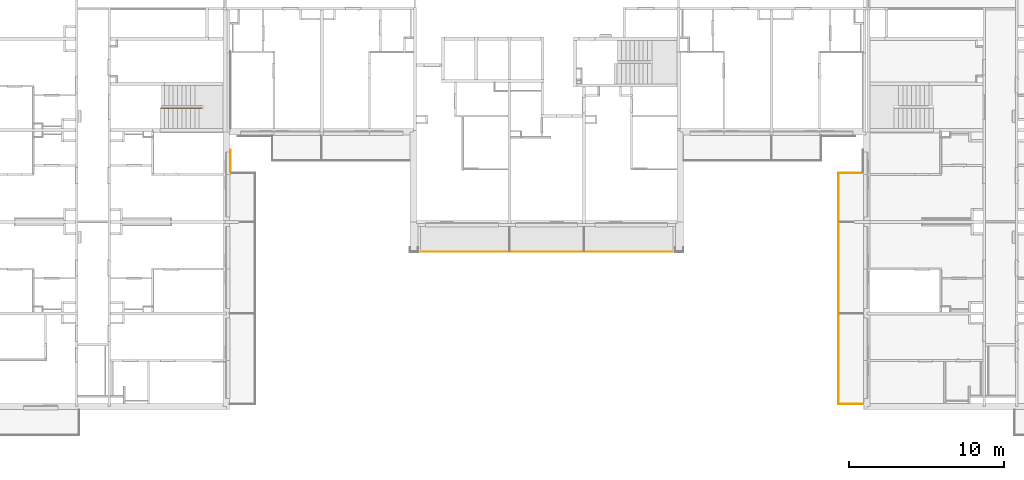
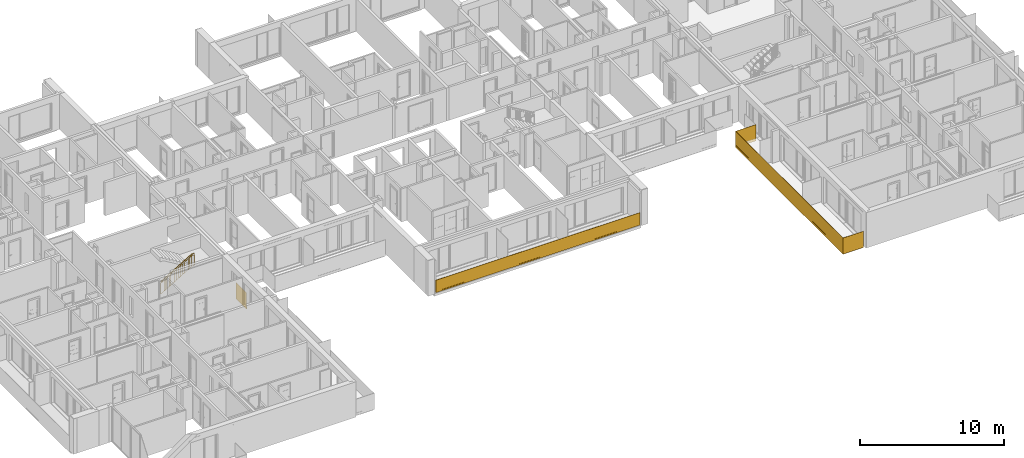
# One storey, part 4 of 64: 4 railings.
"""IFC2X3 building model written with IfcOpenShell, lengths in millimetres."""

from ifc_helpers import new_model, entity, si_unit, converted_unit, derived_unit, money_unit, direction, frame, origin_with_axes, place, context, subcontext, project, spatial, faceted_brep, material, material_list, type_object, element, save


model = new_model("IFC2X3")

# Units and contexts
model_context = context("Model", 3, precision=0.01, world=origin_with_axes(), true_north=direction((0.34421633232, 0.938890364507)))
body_context = subcontext(model_context, "Body", "Model", "MODEL_VIEW")
ifc_project = project(units=[si_unit("LENGTHUNIT", "METRE", prefix="MILLI"), si_unit("AREAUNIT", "SQUARE_METRE"), si_unit("VOLUMEUNIT", "CUBIC_METRE"), converted_unit("PLANEANGLEUNIT", "DEGREE", entity("IfcPlaneAngleMeasure", 0.0174532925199), si_unit("PLANEANGLEUNIT", "RADIAN"), dimensions=[0, 0, 0, 0, 0, 0, 0]), si_unit("SOLIDANGLEUNIT", "STERADIAN"), money_unit("USD"), converted_unit("TIMEUNIT", "Year", entity("IfcTimeMeasure", 31556926.0), si_unit("TIMEUNIT", "SECOND"), dimensions=[0, 0, 1, 0, 0, 0, 0]), si_unit("MASSUNIT", "GRAM", prefix="KILO"), si_unit("THERMODYNAMICTEMPERATUREUNIT", "DEGREE_CELSIUS"), si_unit("LUMINOUSINTENSITYUNIT", "LUMEN"), si_unit("ENERGYUNIT", "JOULE", prefix="MEGA"), derived_unit("THERMALCONDUCTANCEUNIT", [(si_unit("POWERUNIT", "WATT"), 1), (si_unit("LENGTHUNIT", "METRE"), -1), (si_unit("THERMODYNAMICTEMPERATUREUNIT", "KELVIN"), -1)]), derived_unit("SPECIFICHEATCAPACITYUNIT", [(si_unit("ENERGYUNIT", "JOULE"), 1), (si_unit("MASSUNIT", "GRAM", prefix="KILO"), -1), (si_unit("THERMODYNAMICTEMPERATUREUNIT", "KELVIN"), -1)]), derived_unit("MASSDENSITYUNIT", [(si_unit("MASSUNIT", "GRAM", prefix="KILO"), 1), (si_unit("VOLUMEUNIT", "CUBIC_METRE"), -1)])], contexts=[model_context])

# Site, building, storey
site_placement = place(None, origin_with_axes())
site = spatial("IfcSite", under=ifc_project, at=site_placement, Name="USTRONIE MORSKIE", CompositionType="ELEMENT")
building_placement = place(site_placement, origin_with_axes())
building = spatial("IfcBuilding", under=site, at=building_placement, Name="Budynek", CompositionType="ELEMENT")
storey_placement = place(building_placement, frame((0.0, 0.0, 7000.0), z_axis=(0.0, 0.0, 1.0), x_axis=(1.0, 0.0, 0.0)))
storey = spatial("IfcBuildingStorey", under=building, at=storey_placement, Name="PIĘTRO 2", CompositionType="ELEMENT", Elevation=7000.0)

# Railings
ifc_material_1 = material(Name="Szkło struktualne")
ifc_material_2 = material(Name="Profile aluminiowe")
ifc_material_list_1 = material_list([ifc_material_1, ifc_material_2])
railing_type = type_object("IfcRailingType", Name="Typ balustrady", PredefinedType="NOTDEFINED")
railing_1_placement = place(storey_placement, frame((367377.958165, 724111.198359, 0.0), z_axis=(0.0, 0.0, 1.0), x_axis=(-1.0, 0.0, 0.0)))
element("IfcRailing", 1, at=railing_1_placement, inside=storey, type_object=railing_type, material=ifc_material_list_1, Name="BL1", PredefinedType="NOTDEFINED", context=body_context, shape_type="Brep", body=[
    faceted_brep([(-40.0, -1550.0, -300.0), (-40.0, -80.0, -300.0), (-40.0, -80.0, 1070.0), (-40.0, -1550.0, 1070.0), (-60.0, -80.0, -300.0), (-60.0, -1550.0, -300.0), (-60.0, -80.0, 1070.0), (-60.0, -1550.0, 1070.0)], [[[0, 1, 2, 3]], [[4, 1, 0, 5]], [[6, 2, 1, 4]], [[3, 2, 6, 7]], [[0, 3, 7, 5]], [[6, 4, 5, 7]]]),
    faceted_brep([(-65.0, -1550.0, -105.0), (-65.0, -80.0, -105.0), (-65.0, -80.0, -305.0), (-65.0, -1550.0, -305.0), (-60.0, -1550.0, -105.0), (-60.0, -80.0, -105.0), (-60.0, -80.0, -300.0), (-40.0, -80.0, -300.0), (-40.0, -80.0, -105.0), (-35.0, -80.0, -105.0), (-35.0, -80.0, -305.0), (-35.0, -1550.0, -305.0), (-35.0, -1550.0, -105.0), (-40.0, -1550.0, -105.0), (-40.0, -1550.0, -300.0), (-60.0, -1550.0, -300.0)], [[[0, 1, 2, 3]], [[1, 0, 4, 5]], [[6, 7, 8, 9, 10, 2, 1, 5]], [[10, 11, 3, 2]], [[11, 12, 13, 14, 15, 4, 0, 3]], [[15, 6, 5, 4]], [[7, 6, 15, 14]], [[8, 7, 14, 13]], [[9, 8, 13, 12]], [[11, 10, 9, 12]]]),
])
ifc_material_list_2 = material_list([ifc_material_1, ifc_material_2, ifc_material_1, ifc_material_2, ifc_material_1, ifc_material_2])
railing_2_placement = place(storey_placement, frame((408267.914768, 724111.198359, 0.0), z_axis=(0.0, 0.0, 1.0), x_axis=(-1.0, 0.0, 0.0)))
element("IfcRailing", 2, at=railing_2_placement, inside=storey, type_object=railing_type, material=ifc_material_list_2, Name="BL1", PredefinedType="NOTDEFINED", context=body_context, shape_type="Brep", body=[
    faceted_brep([(29.9999996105, -40.0000002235, -300.00000039), (29.9999996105, -40.0000002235, 1069.99999972), (1639.99901128, -40.0000002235, 1069.99999972), (1639.99901128, -40.0000002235, -300.00000039), (29.9999996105, -59.9999997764, 1069.99999972), (29.9999996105, -59.9999997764, -300.00000039), (1659.99896906, -59.9999997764, 1069.99999972), (1659.99896906, -59.9999997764, -300.00000039)], [[[0, 1, 2, 3]], [[4, 1, 0, 5]], [[2, 1, 4, 6]], [[3, 2, 6, 7]], [[5, 0, 3, 7]], [[6, 4, 5, 7]]]),
    faceted_brep([(1649.99899054, -64.9999999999, -105.0), (30.0, -64.9999999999, -105.0), (30.0, -64.9999999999, -305.0), (1649.99899054, -64.9999999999, -305.0), (1649.99899054, -59.9999999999, -105.0), (30.0, -59.9999999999, -105.0), (30.0, -59.9999999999, -300.0), (30.0, -40.0, -300.0), (30.0, -40.0, -105.0), (30.0, -35.0, -105.0), (30.0, -35.0, -305.0), (1649.99899054, -35.0, -305.0), (1649.99899054, -35.0, -105.0), (1649.99899054, -40.0, -105.0), (1649.99899054, -40.0, -300.0), (1649.99899054, -59.9999999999, -300.0)], [[[0, 1, 2, 3]], [[1, 0, 4, 5]], [[6, 7, 8, 9, 10, 2, 1, 5]], [[10, 11, 3, 2]], [[11, 12, 13, 14, 15, 4, 0, 3]], [[15, 6, 5, 4]], [[7, 6, 15, 14]], [[8, 7, 14, 13]], [[9, 8, 13, 12]], [[11, 10, 9, 12]]]),
    faceted_brep([(1639.99901165, -40.000000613, -300.00000039), (1639.99901165, -40.000000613, 1069.99999972), (1640.03011585, 14849.9993229, 1069.99999972), (1640.03011585, 14849.9993229, -300.00000039), (1659.99896943, -60.0000001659, 1069.99999972), (1659.99896943, -60.0000001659, -300.00000039), (1660.03015719, 14869.9993224, 1069.99999972), (1660.03015719, 14869.9993224, -300.00000039)], [[[0, 1, 2, 3]], [[4, 1, 0, 5]], [[2, 1, 4, 6]], [[3, 2, 6, 7]], [[5, 0, 3, 7]], [[6, 4, 5, 7]]]),
    faceted_brep([(1665.03013652, 14859.9992911, -105.0), (1664.99899054, -50.000031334, -105.0), (1664.99899054, -50.000031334, -305.0), (1665.03013652, 14859.9992911, -305.0), (1660.03013652, 14859.9993015, -105.0), (1659.99899054, -50.0000208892, -105.0), (1659.99899054, -50.0000208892, -300.0), (1639.99899054, -49.9999791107, -300.0), (1639.99899054, -49.9999791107, -105.0), (1634.99899054, -49.9999686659, -105.0), (1634.99899054, -49.9999686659, -305.0), (1635.03013652, 14859.9993537, -305.0), (1635.03013652, 14859.9993537, -105.0), (1640.03013652, 14859.9993433, -105.0), (1640.03013652, 14859.9993433, -300.0), (1660.03013652, 14859.9993015, -300.0)], [[[0, 1, 2, 3]], [[1, 0, 4, 5]], [[6, 7, 8, 9, 10, 2, 1, 5]], [[10, 11, 3, 2]], [[11, 12, 13, 14, 15, 4, 0, 3]], [[15, 6, 5, 4]], [[7, 6, 15, 14]], [[8, 7, 14, 13]], [[9, 8, 13, 12]], [[11, 10, 9, 12]]]),
    faceted_brep([(1640.03011624, 14849.9993226, -300.00000039), (1640.03011624, 14849.9993226, 1069.99999972), (30.0628355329, 14849.9993226, 1069.99999972), (30.0628355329, 14849.9993226, -300.00000039), (1660.03015757, 14869.9993222, 1069.99999972), (1660.03015757, 14869.9993222, -300.00000039), (30.0628355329, 14869.9993222, 1069.99999972), (30.0628355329, 14869.9993222, -300.00000039)], [[[0, 1, 2, 3]], [[4, 1, 0, 5]], [[2, 1, 4, 6]], [[3, 2, 6, 7]], [[5, 0, 3, 7]], [[6, 4, 5, 7]]]),
    faceted_brep([(30.0628352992, 14874.9993224, -105.0), (1650.03013652, 14874.9993224, -105.0), (1650.03013652, 14874.9993224, -305.0), (30.0628352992, 14874.9993224, -305.0), (30.0628352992, 14869.9993224, -105.0), (1650.03013652, 14869.9993224, -105.0), (1650.03013652, 14849.9993224, -300.0), (1650.03013652, 14849.9993224, -105.0), (1650.03013652, 14844.9993224, -105.0), (1650.03013652, 14844.9993224, -305.0), (1650.03013652, 14869.9993224, -300.0), (30.0628352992, 14844.9993224, -305.0), (30.0628352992, 14844.9993224, -105.0), (30.0628352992, 14849.9993224, -105.0), (30.0628352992, 14849.9993224, -300.0), (30.0628352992, 14869.9993224, -300.0)], [[[0, 1, 2, 3]], [[1, 0, 4, 5]], [[6, 7, 8, 9, 2, 1, 5, 10]], [[9, 11, 3, 2]], [[11, 12, 13, 14, 15, 4, 0, 3]], [[15, 10, 5, 4]], [[7, 6, 14, 13]], [[8, 7, 13, 12]], [[11, 9, 8, 12]], [[6, 10, 15, 14]]]),
])
railing_3_placement = place(storey_placement, frame((395637.920919, 719051.199036, 30.0), z_axis=(0.0, 0.0, 1.0), x_axis=(1.0, 0.0, 0.0)))
element("IfcRailing", 3, at=railing_3_placement, inside=storey, type_object=railing_type, material=ifc_material_list_1, Name="BL1", PredefinedType="NOTDEFINED", context=body_context, shape_type="Brep", body=[
    faceted_brep([(-16000.0, 9.99999999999, -100.0), (360.0, 9.99999999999, -100.0), (360.0, 9.99999999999, 950.0), (-16000.0, 9.99999999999, 950.0), (360.0, 30.0, -100.0), (-16000.0, 30.0, -100.0), (360.0, 30.0, 950.0), (-16000.0, 30.0, 950.0)], [[[0, 1, 2, 3]], [[4, 1, 0, 5]], [[6, 2, 1, 4]], [[3, 2, 6, 7]], [[0, 3, 7, 5]], [[6, 4, 5, 7]]]),
    faceted_brep([(360.0, 35.0, -105.0), (-16000.0, 35.0, -105.0), (-16000.0, 35.0, -5.0), (360.0, 35.0, -5.0), (360.0, 5.0, -105.0), (-16000.0, 5.0, -105.0), (-16000.0, 5.0, -5.0), (-16000.0, 9.99999999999, -5.0), (-16000.0, 9.99999999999, -100.0), (-16000.0, 30.0, -100.0), (-16000.0, 30.0, -5.0), (360.0, 30.0, -5.0), (360.0, 9.99999999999, -100.0), (360.0, 9.99999999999, -5.0), (360.0, 5.0, -5.0), (360.0, 30.0, -100.0)], [[[0, 1, 2, 3]], [[4, 5, 1, 0]], [[5, 6, 7, 8, 9, 10, 2, 1]], [[3, 2, 10, 11]], [[12, 13, 14, 4, 0, 3, 11, 15]], [[5, 4, 14, 6]], [[14, 13, 7, 6]], [[13, 12, 8, 7]], [[12, 15, 9, 8]], [[9, 15, 11, 10]]]),
])
ifc_material_3 = material(Name="Stal konstrukcyjna")
ifc_material_4 = material(Name="Stal nierdzewna")
ifc_material_list_3 = material_list([ifc_material_3, ifc_material_3, ifc_material_3, ifc_material_4, ifc_material_4, ifc_material_4, ifc_material_3, ifc_material_3, ifc_material_4, ifc_material_4, ifc_material_4, ifc_material_3, ifc_material_3, ifc_material_3, ifc_material_3, ifc_material_3, ifc_material_3, ifc_material_3, ifc_material_3, ifc_material_3, ifc_material_3, ifc_material_3, ifc_material_3, ifc_material_3, ifc_material_3, ifc_material_3, ifc_material_3, ifc_material_3, ifc_material_3, ifc_material_3, ifc_material_3, ifc_material_3, ifc_material_3, ifc_material_3])
railing_4_placement = place(storey_placement, frame((365667.920919, 728301.19902, 192.0), z_axis=(0.0, 0.0, 1.0), x_axis=(1.0, 0.0, 0.0)))
element("IfcRailing", 4, at=railing_4_placement, inside=storey, type_object=railing_type, material=ifc_material_list_3, Name="BL1", PredefinedType="NOTDEFINED", context=body_context, shape_type="Brep", body=[
    faceted_brep([(-60.0, 45.0, 1324.4388337), (-60.0, 25.0, 1324.4388337), (-60.0, 25.0, 2224.4388337), (-60.0, 45.0, 2224.4388337), (-40.0, 45.0, 1324.4388337), (-40.0, 25.0, 1324.4388337), (-55.0, 40.0, 1324.4388337), (-55.0, 30.0, 1324.4388337), (-45.0, 30.0, 1324.4388337), (-45.0, 40.0, 1324.4388337), (-40.0, 25.0, 2224.4388337), (-40.0, 45.0, 2224.4388337), (-55.0, 40.0, 2224.4388337), (-45.0, 40.0, 2224.4388337), (-45.0, 30.0, 2224.4388337), (-55.0, 30.0, 2224.4388337)], [[[0, 1, 2, 3]], [[0, 4, 5, 1], [6, 7, 8, 9]], [[1, 5, 10, 2]], [[3, 2, 10, 11], [12, 13, 14, 15]], [[4, 0, 3, 11]], [[5, 4, 11, 10]], [[7, 6, 12, 15]], [[8, 7, 15, 14]], [[9, 8, 14, 13]], [[6, 9, 13, 12]]]),
    faceted_brep([(-260.0, 45.0, 1321.68950513), (-260.0, 25.0, 1321.68950513), (-260.0, 25.0, 2221.68950513), (-260.0, 45.0, 2221.68950513), (-240.0, 45.0, 1327.18816226), (-240.0, 25.0, 1327.18816226), (-255.0, 40.0, 1323.06416941), (-255.0, 30.0, 1323.06416941), (-245.0, 30.0, 1325.81349798), (-245.0, 40.0, 1325.81349798), (-240.0, 25.0, 2227.18816226), (-240.0, 45.0, 2227.18816226), (-255.0, 40.0, 2223.06416941), (-245.0, 40.0, 2225.81349798), (-245.0, 30.0, 2225.81349798), (-255.0, 30.0, 2223.06416941)], [[[0, 1, 2, 3]], [[0, 4, 5, 1], [6, 7, 8, 9]], [[1, 5, 10, 2]], [[3, 2, 10, 11], [12, 13, 14, 15]], [[4, 0, 3, 11]], [[5, 4, 11, 10]], [[7, 6, 12, 15]], [[8, 7, 15, 14]], [[9, 8, 14, 13]], [[6, 9, 13, 12]]]),
    faceted_brep([(-2738.76673491, 45.0, -155.948275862), (-2738.76673491, 25.0, -155.948275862), (-2738.76673491, 25.0, 744.051724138), (-2738.76673491, 45.0, 744.051724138), (-2718.76673491, 45.0, -144.051724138), (-2718.76673491, 25.0, -144.051724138), (-2733.76673491, 40.0, -152.974137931), (-2733.76673491, 30.0, -152.974137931), (-2723.76673491, 30.0, -147.025862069), (-2723.76673491, 40.0, -147.025862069), (-2718.76673491, 25.0, 755.948275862), (-2718.76673491, 45.0, 755.948275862), (-2733.76673491, 40.0, 747.025862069), (-2723.76673491, 40.0, 752.974137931), (-2723.76673491, 30.0, 752.974137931), (-2733.76673491, 30.0, 747.025862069)], [[[0, 1, 2, 3]], [[0, 4, 5, 1], [6, 7, 8, 9]], [[1, 5, 10, 2]], [[3, 2, 10, 11], [12, 13, 14, 15]], [[4, 0, 3, 11]], [[5, 4, 11, 10]], [[7, 6, 12, 15]], [[8, 7, 15, 14]], [[9, 8, 14, 13]], [[6, 9, 13, 12]]]),
    faceted_brep([(-50.0, 59.9999999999, 2374.4388337), (-50.0, 59.9999999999, 2349.4388337), (-243.12667858, 59.9999999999, 2349.4388337), (-250.0, 59.9999999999, 2374.4388337), (-50.0, 9.99999999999, 2374.4388337), (-50.0, 9.99999999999, 2349.4388337), (-50.0, 25.0, 2349.4388337), (-50.0, 25.0, 2354.4388337), (-50.0, 45.0, 2354.4388337), (-50.0, 45.0, 2349.4388337), (-243.12667858, 45.0, 2349.4388337), (-244.501342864, 45.0, 2354.4388337), (-244.501342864, 25.0, 2354.4388337), (-243.12667858, 25.0, 2349.4388337), (-243.12667858, 9.99999999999, 2349.4388337), (-250.0, 9.99999999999, 2374.4388337)], [[[0, 1, 2, 3]], [[0, 4, 5, 6, 7, 8, 9, 1]], [[1, 9, 10, 2]], [[3, 2, 10, 11, 12, 13, 14, 15]], [[4, 0, 3, 15]], [[5, 4, 15, 14]], [[6, 5, 14, 13]], [[7, 6, 13, 12]], [[8, 7, 12, 11]], [[9, 8, 11, 10]]]),
    faceted_brep([(-50.0, 45.0, 2349.4388337), (-50.0, 25.0, 2349.4388337), (-243.12667858, 25.0, 2349.4388337), (-243.12667858, 45.0, 2349.4388337), (-50.0, 45.0, 2354.4388337), (-50.0, 25.0, 2354.4388337), (-244.501342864, 25.0, 2354.4388337), (-244.501342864, 45.0, 2354.4388337)], [[[0, 1, 2, 3]], [[0, 4, 5, 1]], [[1, 5, 6, 2]], [[3, 2, 6, 7]], [[4, 0, 3, 7]], [[5, 4, 7, 6]]]),
    faceted_brep([(-102.5, 45.0, 2229.4388337), (-102.5, 25.0, 2229.4388337), (-102.5, 25.0, 2349.4388337), (-102.5, 45.0, 2349.4388337), (-97.5, 45.0, 2229.4388337), (-97.5, 25.0, 2229.4388337), (-97.5, 25.0, 2349.4388337), (-97.5, 45.0, 2349.4388337)], [[[0, 1, 2, 3]], [[0, 4, 5, 1]], [[1, 5, 6, 2]], [[3, 2, 6, 7]], [[4, 0, 3, 7]], [[5, 4, 7, 6]]]),
    faceted_brep([(-202.5, 45.0, 2229.4388337), (-202.5, 25.0, 2229.4388337), (-202.5, 25.0, 2349.4388337), (-202.5, 45.0, 2349.4388337), (-197.5, 45.0, 2229.4388337), (-197.5, 25.0, 2229.4388337), (-197.5, 25.0, 2349.4388337), (-197.5, 45.0, 2349.4388337)], [[[0, 1, 2, 3]], [[0, 4, 5, 1]], [[1, 5, 6, 2]], [[3, 2, 6, 7]], [[4, 0, 3, 7]], [[5, 4, 7, 6]]]),
    faceted_brep([(-50.0, 54.9999999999, 2224.4388337), (-50.0, 54.9999999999, 2219.4388337), (-248.625335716, 54.9999999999, 2219.4388337), (-250.0, 54.9999999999, 2224.4388337), (-50.0, 15.0, 2224.4388337), (-50.0, 15.0, 2219.4388337), (-248.625335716, 15.0, 2219.4388337), (-250.0, 15.0, 2224.4388337)], [[[0, 1, 2, 3]], [[0, 4, 5, 1]], [[1, 5, 6, 2]], [[3, 2, 6, 7]], [[4, 0, 3, 7]], [[5, 4, 7, 6]]]),
    faceted_brep([(-50.0, 54.9999999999, 1316.9388337), (-50.0, 54.9999999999, 1311.9388337), (-249.312667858, 54.9999999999, 1311.9388337), (-250.687332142, 54.9999999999, 1316.9388337), (-50.0, 15.0, 1316.9388337), (-50.0, 15.0, 1311.9388337), (-249.312667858, 15.0, 1311.9388337), (-250.687332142, 15.0, 1316.9388337)], [[[0, 1, 2, 3]], [[0, 4, 5, 1]], [[1, 5, 6, 2]], [[3, 2, 6, 7]], [[4, 0, 3, 7]], [[5, 4, 7, 6]]]),
    faceted_brep([(-146.095841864, 47.5, 1324.4388337), (-146.095841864, 22.4999999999, 1324.4388337), (-146.095841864, 22.4999999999, 2214.4388337), (-146.095841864, 47.5, 2214.4388337), (-136.095841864, 47.5, 1324.4388337), (-136.095841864, 22.4999999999, 1324.4388337), (-136.095841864, 22.4999999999, 2214.4388337), (-136.095841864, 47.5, 2214.4388337)], [[[0, 1, 2, 3]], [[0, 4, 5, 1]], [[1, 5, 6, 2]], [[3, 2, 6, 7]], [[4, 0, 3, 7]], [[5, 4, 7, 6]]]),
    faceted_brep([(-237.191683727, 47.5, 1324.4388337), (-237.191683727, 22.4999999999, 1324.4388337), (-237.191683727, 22.4999999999, 2214.4388337), (-237.191683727, 47.5, 2214.4388337), (-227.191683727, 47.5, 1324.4388337), (-227.191683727, 22.4999999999, 1324.4388337), (-227.191683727, 22.4999999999, 2214.4388337), (-227.191683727, 47.5, 2214.4388337)], [[[0, 1, 2, 3]], [[0, 4, 5, 1]], [[1, 5, 6, 2]], [[3, 2, 6, 7]], [[4, 0, 3, 7]], [[5, 4, 7, 6]]]),
    faceted_brep([(-250.0, 59.9999999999, 2374.4388337), (-243.12667858, 59.9999999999, 2349.4388337), (-2715.98615176, 59.9999999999, 878.513802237), (-2728.76673491, 59.9999999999, 900.0), (-250.0, 9.99999999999, 2374.4388337), (-243.12667858, 9.99999999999, 2349.4388337), (-243.12667858, 25.0, 2349.4388337), (-244.501342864, 25.0, 2354.4388337), (-244.501342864, 45.0, 2354.4388337), (-243.12667858, 45.0, 2349.4388337), (-2715.98615176, 45.0, 878.513802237), (-2718.54226839, 45.0, 882.81104179), (-2718.54226839, 25.0, 882.81104179), (-2715.98615176, 25.0, 878.513802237), (-2715.98615176, 9.99999999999, 878.513802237), (-2728.76673491, 9.99999999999, 900.0)], [[[0, 1, 2, 3]], [[0, 4, 5, 6, 7, 8, 9, 1]], [[1, 9, 10, 2]], [[3, 2, 10, 11, 12, 13, 14, 15]], [[4, 0, 3, 15]], [[5, 4, 15, 14]], [[6, 5, 14, 13]], [[7, 6, 13, 12]], [[8, 7, 12, 11]], [[9, 8, 11, 10]]]),
    faceted_brep([(-243.12667858, 45.0, 2349.4388337), (-243.12667858, 25.0, 2349.4388337), (-2715.98615176, 25.0, 878.513802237), (-2715.98615176, 45.0, 878.513802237), (-244.501342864, 45.0, 2354.4388337), (-244.501342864, 25.0, 2354.4388337), (-2718.54226839, 25.0, 882.81104179), (-2718.54226839, 45.0, 882.81104179)], [[[0, 1, 2, 3]], [[0, 4, 5, 1]], [[1, 5, 6, 2]], [[3, 2, 6, 7]], [[4, 0, 3, 7]], [[5, 4, 7, 6]]]),
    faceted_brep([(-295.472395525, 45.0, 2199.7892262), (-295.472395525, 25.0, 2199.7892262), (-295.472395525, 25.0, 2319.7892262), (-295.472395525, 45.0, 2319.7892262), (-290.472395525, 45.0, 2199.7892262), (-290.472395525, 25.0, 2199.7892262), (-290.472395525, 25.0, 2321.27629517), (-292.972395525, 25.0, 2321.27629517), (-292.972395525, 45.0, 2321.27629517), (-290.472395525, 45.0, 2321.27629517)], [[[0, 1, 2, 3]], [[0, 4, 5, 1]], [[1, 5, 6, 7, 2]], [[7, 8, 3, 2]], [[4, 0, 3, 8, 9]], [[5, 4, 9, 6]], [[7, 6, 9, 8]]]),
    faceted_brep([(-2688.29433938, 45.0, 776.472725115), (-2688.29433938, 25.0, 776.472725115), (-2688.29433938, 25.0, 896.472725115), (-2688.29433938, 45.0, 896.472725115), (-2683.29433938, 45.0, 776.472725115), (-2683.29433938, 25.0, 776.472725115), (-2683.29433938, 25.0, 897.95979408), (-2685.79433938, 25.0, 897.95979408), (-2685.79433938, 45.0, 897.95979408), (-2683.29433938, 45.0, 897.95979408)], [[[0, 1, 2, 3]], [[0, 4, 5, 1]], [[1, 5, 6, 7, 2]], [[7, 8, 3, 2]], [[4, 0, 3, 8, 9]], [[5, 4, 9, 6]], [[7, 6, 9, 8]]]),
    faceted_brep([(-250.0, 54.9999999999, 2224.4388337), (-248.625335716, 54.9999999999, 2219.4388337), (-2726.21061828, 54.9999999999, 745.702760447), (-2728.76673491, 54.9999999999, 750.0), (-250.0, 15.0, 2224.4388337), (-248.625335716, 15.0, 2219.4388337), (-2726.21061828, 15.0, 745.702760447), (-2728.76673491, 15.0, 750.0)], [[[0, 1, 2, 3]], [[0, 4, 5, 1]], [[1, 5, 6, 2]], [[3, 2, 6, 7]], [[4, 0, 3, 7]], [[5, 4, 7, 6]]]),
    faceted_brep([(-250.687332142, 54.9999999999, 1316.9388337), (-249.312667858, 54.9999999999, 1311.9388337), (-2727.48867659, 54.9999999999, -162.148619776), (-2730.04479322, 54.9999999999, -157.851380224), (-250.687332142, 15.0, 1316.9388337), (-249.312667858, 15.0, 1311.9388337), (-2727.48867659, 15.0, -162.148619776), (-2730.04479322, 15.0, -157.851380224)], [[[0, 1, 2, 3]], [[0, 4, 5, 1]], [[1, 5, 6, 2]], [[3, 2, 6, 7]], [[4, 0, 3, 7]], [[5, 4, 7, 6]]]),
    faceted_brep([(-311.050034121, 47.5, 1288.12458926), (-311.050034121, 22.4999999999, 1288.12458926), (-311.050034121, 22.4999999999, 2178.12458926), (-311.050034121, 47.5, 2178.12458926), (-301.050034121, 47.5, 1294.07286512), (-301.050034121, 22.4999999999, 1294.07286512), (-301.050034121, 22.4999999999, 2184.07286512), (-301.050034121, 47.5, 2184.07286512)], [[[0, 1, 2, 3]], [[0, 4, 5, 1]], [[1, 5, 6, 2]], [[3, 2, 6, 7]], [[4, 0, 3, 7]], [[5, 4, 7, 6]]]),
    faceted_brep([(-416.883367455, 50.0, 1225.17200305), (-416.883367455, 20.0, 1225.17200305), (-416.883367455, 20.0, 2115.17200305), (-416.883367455, 50.0, 2115.17200305), (-411.883367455, 50.0, 1228.14614099), (-411.883367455, 20.0, 1228.14614099), (-411.883367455, 20.0, 2118.14614099), (-411.883367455, 50.0, 2118.14614099)], [[[0, 1, 2, 3]], [[0, 4, 5, 1]], [[1, 5, 6, 2]], [[3, 2, 6, 7]], [[4, 0, 3, 7]], [[5, 4, 7, 6]]]),
    faceted_brep([(-527.716700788, 47.5, 1159.24527892), (-527.716700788, 22.4999999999, 1159.24527892), (-527.716700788, 22.4999999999, 2049.24527892), (-527.716700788, 47.5, 2049.24527892), (-517.716700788, 47.5, 1165.19355478), (-517.716700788, 22.4999999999, 1165.19355478), (-517.716700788, 22.4999999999, 2055.19355478), (-517.716700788, 47.5, 2055.19355478)], [[[0, 1, 2, 3]], [[0, 4, 5, 1]], [[1, 5, 6, 2]], [[3, 2, 6, 7]], [[4, 0, 3, 7]], [[5, 4, 7, 6]]]),
    faceted_brep([(-636.050034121, 47.5, 1094.80562374), (-636.050034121, 22.4999999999, 1094.80562374), (-636.050034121, 22.4999999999, 1984.80562374), (-636.050034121, 47.5, 1984.80562374), (-626.050034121, 47.5, 1100.75389961), (-626.050034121, 22.4999999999, 1100.75389961), (-626.050034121, 22.4999999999, 1990.75389961), (-626.050034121, 47.5, 1990.75389961)], [[[0, 1, 2, 3]], [[0, 4, 5, 1]], [[1, 5, 6, 2]], [[3, 2, 6, 7]], [[4, 0, 3, 7]], [[5, 4, 7, 6]]]),
    faceted_brep([(-744.383367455, 47.5, 1030.36596857), (-744.383367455, 22.4999999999, 1030.36596857), (-744.383367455, 22.4999999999, 1920.36596857), (-744.383367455, 47.5, 1920.36596857), (-734.383367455, 47.5, 1036.31424443), (-734.383367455, 22.4999999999, 1036.31424443), (-734.383367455, 22.4999999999, 1926.31424443), (-734.383367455, 47.5, 1926.31424443)], [[[0, 1, 2, 3]], [[0, 4, 5, 1]], [[1, 5, 6, 2]], [[3, 2, 6, 7]], [[4, 0, 3, 7]], [[5, 4, 7, 6]]]),
    faceted_brep([(-852.716700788, 47.5, 965.9263134), (-852.716700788, 22.4999999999, 965.9263134), (-852.716700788, 22.4999999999, 1855.9263134), (-852.716700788, 47.5, 1855.9263134), (-842.716700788, 47.5, 971.874589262), (-842.716700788, 22.4999999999, 971.874589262), (-842.716700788, 22.4999999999, 1861.87458926), (-842.716700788, 47.5, 1861.87458926)], [[[0, 1, 2, 3]], [[0, 4, 5, 1]], [[1, 5, 6, 2]], [[3, 2, 6, 7]], [[4, 0, 3, 7]], [[5, 4, 7, 6]]]),
    faceted_brep([(-961.050034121, 47.5, 901.486658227), (-961.050034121, 22.4999999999, 901.486658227), (-961.050034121, 22.4999999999, 1791.48665823), (-961.050034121, 47.5, 1791.48665823), (-951.050034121, 47.5, 907.434934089), (-951.050034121, 22.4999999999, 907.434934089), (-951.050034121, 22.4999999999, 1797.43493409), (-951.050034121, 47.5, 1797.43493409)], [[[0, 1, 2, 3]], [[0, 4, 5, 1]], [[1, 5, 6, 2]], [[3, 2, 6, 7]], [[4, 0, 3, 7]], [[5, 4, 7, 6]]]),
    faceted_brep([(-1066.88336745, 50.0, 838.53407202), (-1066.88336745, 20.0, 838.53407202), (-1066.88336745, 20.0, 1728.53407202), (-1066.88336745, 50.0, 1728.53407202), (-1061.88336745, 50.0, 841.508209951), (-1061.88336745, 20.0, 841.508209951), (-1061.88336745, 20.0, 1731.50820995), (-1061.88336745, 50.0, 1731.50820995)], [[[0, 1, 2, 3]], [[0, 4, 5, 1]], [[1, 5, 6, 2]], [[3, 2, 6, 7]], [[4, 0, 3, 7]], [[5, 4, 7, 6]]]),
    faceted_brep([(-1177.71670079, 47.5, 772.607347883), (-1177.71670079, 22.4999999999, 772.607347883), (-1177.71670079, 22.4999999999, 1662.60734788), (-1177.71670079, 47.5, 1662.60734788), (-1167.71670079, 47.5, 778.555623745), (-1167.71670079, 22.4999999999, 778.555623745), (-1167.71670079, 22.4999999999, 1668.55562374), (-1167.71670079, 47.5, 1668.55562374)], [[[0, 1, 2, 3]], [[0, 4, 5, 1]], [[1, 5, 6, 2]], [[3, 2, 6, 7]], [[4, 0, 3, 7]], [[5, 4, 7, 6]]]),
    faceted_brep([(-1286.05003412, 47.5, 708.16769271), (-1286.05003412, 22.4999999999, 708.16769271), (-1286.05003412, 22.4999999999, 1598.16769271), (-1286.05003412, 47.5, 1598.16769271), (-1276.05003412, 47.5, 714.115968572), (-1276.05003412, 22.4999999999, 714.115968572), (-1276.05003412, 22.4999999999, 1604.11596857), (-1276.05003412, 47.5, 1604.11596857)], [[[0, 1, 2, 3]], [[0, 4, 5, 1]], [[1, 5, 6, 2]], [[3, 2, 6, 7]], [[4, 0, 3, 7]], [[5, 4, 7, 6]]]),
    faceted_brep([(-1394.38336745, 47.5, 643.728037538), (-1394.38336745, 22.4999999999, 643.728037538), (-1394.38336745, 22.4999999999, 1533.72803754), (-1394.38336745, 47.5, 1533.72803754), (-1384.38336745, 47.5, 649.6763134), (-1384.38336745, 22.4999999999, 649.6763134), (-1384.38336745, 22.4999999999, 1539.6763134), (-1384.38336745, 47.5, 1539.6763134)], [[[0, 1, 2, 3]], [[0, 4, 5, 1]], [[1, 5, 6, 2]], [[3, 2, 6, 7]], [[4, 0, 3, 7]], [[5, 4, 7, 6]]]),
    faceted_brep([(-1502.71670079, 47.5, 579.288382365), (-1502.71670079, 22.4999999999, 579.288382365), (-1502.71670079, 22.4999999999, 1469.28838237), (-1502.71670079, 47.5, 1469.28838237), (-1492.71670079, 47.5, 585.236658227), (-1492.71670079, 22.4999999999, 585.236658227), (-1492.71670079, 22.4999999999, 1475.23665823), (-1492.71670079, 47.5, 1475.23665823)], [[[0, 1, 2, 3]], [[0, 4, 5, 1]], [[1, 5, 6, 2]], [[3, 2, 6, 7]], [[4, 0, 3, 7]], [[5, 4, 7, 6]]]),
    faceted_brep([(-1611.05003412, 47.5, 514.848727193), (-1611.05003412, 22.4999999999, 514.848727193), (-1611.05003412, 22.4999999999, 1404.84872719), (-1611.05003412, 47.5, 1404.84872719), (-1601.05003412, 47.5, 520.797003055), (-1601.05003412, 22.4999999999, 520.797003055), (-1601.05003412, 22.4999999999, 1410.79700305), (-1601.05003412, 47.5, 1410.79700305)], [[[0, 1, 2, 3]], [[0, 4, 5, 1]], [[1, 5, 6, 2]], [[3, 2, 6, 7]], [[4, 0, 3, 7]], [[5, 4, 7, 6]]]),
    faceted_brep([(-1716.88336745, 50.0, 451.896140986), (-1716.88336745, 20.0, 451.896140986), (-1716.88336745, 20.0, 1341.89614099), (-1716.88336745, 50.0, 1341.89614099), (-1711.88336745, 50.0, 454.870278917), (-1711.88336745, 20.0, 454.870278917), (-1711.88336745, 20.0, 1344.87027892), (-1711.88336745, 50.0, 1344.87027892)], [[[0, 1, 2, 3]], [[0, 4, 5, 1]], [[1, 5, 6, 2]], [[3, 2, 6, 7]], [[4, 0, 3, 7]], [[5, 4, 7, 6]]]),
    faceted_brep([(-1827.71670079, 47.5, 385.969416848), (-1827.71670079, 22.4999999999, 385.969416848), (-1827.71670079, 22.4999999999, 1275.96941685), (-1827.71670079, 47.5, 1275.96941685), (-1817.71670079, 47.5, 391.91769271), (-1817.71670079, 22.4999999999, 391.91769271), (-1817.71670079, 22.4999999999, 1281.91769271), (-1817.71670079, 47.5, 1281.91769271)], [[[0, 1, 2, 3]], [[0, 4, 5, 1]], [[1, 5, 6, 2]], [[3, 2, 6, 7]], [[4, 0, 3, 7]], [[5, 4, 7, 6]]]),
    faceted_brep([(-1936.05003412, 47.5, 321.529761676), (-1936.05003412, 22.4999999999, 321.529761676), (-1936.05003412, 22.4999999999, 1211.52976168), (-1936.05003412, 47.5, 1211.52976168), (-1926.05003412, 47.5, 327.478037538), (-1926.05003412, 22.4999999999, 327.478037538), (-1926.05003412, 22.4999999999, 1217.47803754), (-1926.05003412, 47.5, 1217.47803754)], [[[0, 1, 2, 3]], [[0, 4, 5, 1]], [[1, 5, 6, 2]], [[3, 2, 6, 7]], [[4, 0, 3, 7]], [[5, 4, 7, 6]]]),
    faceted_brep([(-2044.38336745, 47.5, 257.090106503), (-2044.38336745, 22.4999999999, 257.090106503), (-2044.38336745, 22.4999999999, 1147.0901065), (-2044.38336745, 47.5, 1147.0901065), (-2034.38336745, 47.5, 263.038382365), (-2034.38336745, 22.4999999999, 263.038382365), (-2034.38336745, 22.4999999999, 1153.03838237), (-2034.38336745, 47.5, 1153.03838237)], [[[0, 1, 2, 3]], [[0, 4, 5, 1]], [[1, 5, 6, 2]], [[3, 2, 6, 7]], [[4, 0, 3, 7]], [[5, 4, 7, 6]]]),
    faceted_brep([(-2152.71670079, 47.5, 192.650451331), (-2152.71670079, 22.4999999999, 192.650451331), (-2152.71670079, 22.4999999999, 1082.65045133), (-2152.71670079, 47.5, 1082.65045133), (-2142.71670079, 47.5, 198.598727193), (-2142.71670079, 22.4999999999, 198.598727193), (-2142.71670079, 22.4999999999, 1088.59872719), (-2142.71670079, 47.5, 1088.59872719)], [[[0, 1, 2, 3]], [[0, 4, 5, 1]], [[1, 5, 6, 2]], [[3, 2, 6, 7]], [[4, 0, 3, 7]], [[5, 4, 7, 6]]]),
    faceted_brep([(-2261.05003412, 47.5, 128.210796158), (-2261.05003412, 22.4999999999, 128.210796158), (-2261.05003412, 22.4999999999, 1018.21079616), (-2261.05003412, 47.5, 1018.21079616), (-2251.05003412, 47.5, 134.15907202), (-2251.05003412, 22.4999999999, 134.15907202), (-2251.05003412, 22.4999999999, 1024.15907202), (-2251.05003412, 47.5, 1024.15907202)], [[[0, 1, 2, 3]], [[0, 4, 5, 1]], [[1, 5, 6, 2]], [[3, 2, 6, 7]], [[4, 0, 3, 7]], [[5, 4, 7, 6]]]),
    faceted_brep([(-2366.88336745, 50.0, 65.2582099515), (-2366.88336745, 20.0, 65.2582099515), (-2366.88336745, 20.0, 955.258209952), (-2366.88336745, 50.0, 955.258209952), (-2361.88336745, 50.0, 68.2323478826), (-2361.88336745, 20.0, 68.2323478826), (-2361.88336745, 20.0, 958.232347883), (-2361.88336745, 50.0, 958.232347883)], [[[0, 1, 2, 3]], [[0, 4, 5, 1]], [[1, 5, 6, 2]], [[3, 2, 6, 7]], [[4, 0, 3, 7]], [[5, 4, 7, 6]]]),
    faceted_brep([(-2460.47920932, 47.5, 9.58482125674), (-2460.47920932, 22.4999999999, 9.58482125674), (-2460.47920932, 22.4999999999, 899.584821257), (-2460.47920932, 47.5, 899.584821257), (-2450.47920932, 47.5, 15.5330971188), (-2450.47920932, 22.4999999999, 15.5330971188), (-2450.47920932, 22.4999999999, 905.533097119), (-2450.47920932, 47.5, 905.533097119)], [[[0, 1, 2, 3]], [[0, 4, 5, 1]], [[1, 5, 6, 2]], [[3, 2, 6, 7]], [[4, 0, 3, 7]], [[5, 4, 7, 6]]]),
    faceted_brep([(-2551.57505118, 47.5, -44.6014984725), (-2551.57505118, 22.4999999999, -44.6014984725), (-2551.57505118, 22.4999999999, 845.398501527), (-2551.57505118, 47.5, 845.398501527), (-2541.57505118, 47.5, -38.6532226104), (-2541.57505118, 22.4999999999, -38.6532226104), (-2541.57505118, 22.4999999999, 851.34677739), (-2541.57505118, 47.5, 851.34677739)], [[[0, 1, 2, 3]], [[0, 4, 5, 1]], [[1, 5, 6, 2]], [[3, 2, 6, 7]], [[4, 0, 3, 7]], [[5, 4, 7, 6]]]),
    faceted_brep([(-2642.67089305, 47.5, -98.7878182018), (-2642.67089305, 22.4999999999, -98.7878182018), (-2642.67089305, 22.4999999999, 791.212181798), (-2642.67089305, 47.5, 791.212181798), (-2632.67089305, 47.5, -92.8395423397), (-2632.67089305, 22.4999999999, -92.8395423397), (-2632.67089305, 22.4999999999, 797.16045766), (-2632.67089305, 47.5, 797.16045766)], [[[0, 1, 2, 3]], [[0, 4, 5, 1]], [[1, 5, 6, 2]], [[3, 2, 6, 7]], [[4, 0, 3, 7]], [[5, 4, 7, 6]]]),
])

save(model, "model.ifc")
